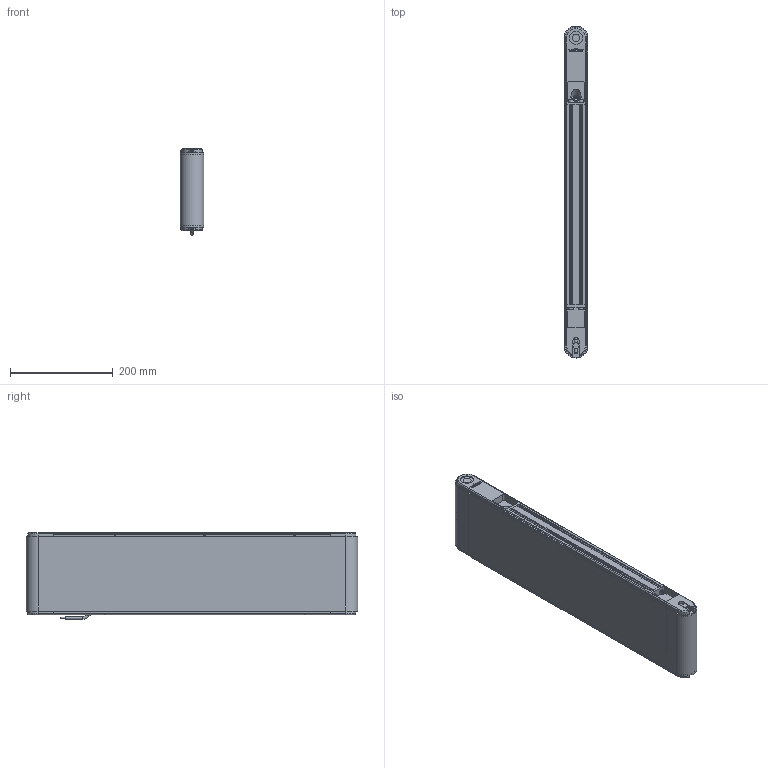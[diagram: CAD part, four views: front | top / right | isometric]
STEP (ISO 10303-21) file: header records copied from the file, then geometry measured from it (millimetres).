
FILE_DESCRIPTION(/* description */ (''),/* implementation_level */ '2;1');
FILE_NAME(/* name */ 'G:\DATEN\CAD\Förderband\Marketing\3D-Modelle (Standard)\FR-40-160\FR-40-160-600-K.stp',/* time_stamp */ '2019-05-08T09:06:56+02:00',/* author */ ('melanie.ochs'),/* organization */ (''),/* preprocessor_version */ 'ST-DEVELOPER v17',/* originating_system */ 'Autodesk Inventor 2019',/* authorisation */ '');
FILE_SCHEMA (('CONFIG_CONTROL_DESIGN'));
Length unit declared in the file: centimetre
Products named in the file (1): FR-40-160-600-K
Bounding box: 46.6 x 646.6 x 168.53 mm (x, y, z)
Volume: 2027861.1 mm3; surface area: 717245.5 mm2
Topology: 6 solids, 25 shells, 1002 faces, 2728 edges, 1821 vertices
Faces by surface type: plane 513, cylinder 278, bspline 122, cone 64, torus 25
Full cylindrical faces by diameter (mm): 2 x2, 4 x6, 4.3 x4, 4.917 x1, 5 x11, 5.5 x8, 6 x4, 6.5 x1, 6.647 x3, 8 x4, 8.3 x6, 8.5 x8, 8.773 x1, 10 x1, 11 x1, 12 x5, 15 x2, 20 x4, 25 x2, 28 x4
Entity records: 34116 total; most frequent: CARTESIAN_POINT 8111, ORIENTED_EDGE 5426, DIRECTION 4904, EDGE_CURVE 2713, VERTEX_POINT 1821, AXIS2_PLACEMENT_3D 1702, LINE 1500, VECTOR 1500
